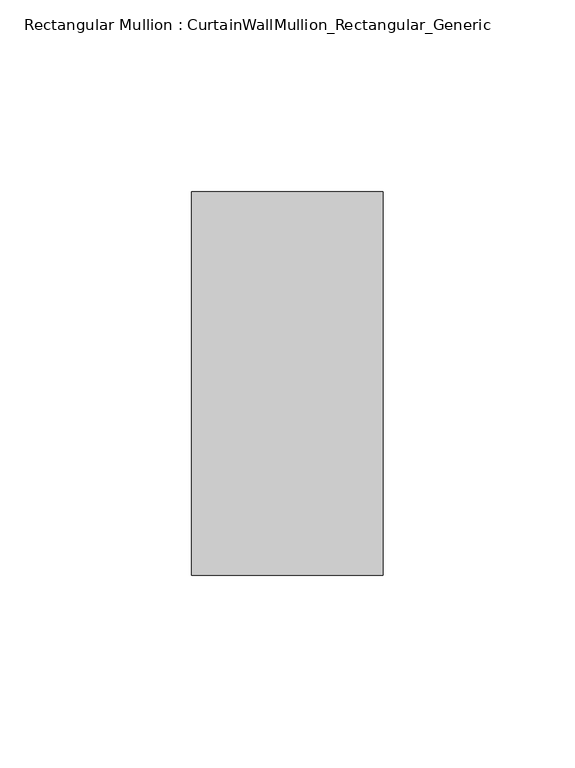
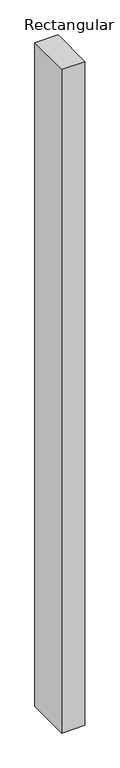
"""IFC4 building model written with IfcOpenShell, lengths in millimetres: member geometry, Rectangular Mullion : CurtainWallMullion_Rectangular_Generic."""

from ifc_helpers import new_model, si_unit, frame, origin, place, context, project, spatial, polyline, outline, extrude, source, transform, mapped, element, save


def rectangular_mullion_curtainwallmullion_rectangular_generic_0752d91b(model_context):
    return source(origin(), model_context, "Body", "SweptSolid", [
        extrude(outline(polyline([(0.0, 50.0), (0.0, -50.0), (-50.0, -50.0), (-50.0, 50.0), (0.0, 50.0)])), frame((0.0, 0.0, -1511.1111113), z_axis=(0.0, 0.0, 1.0), x_axis=(1.0, 0.0, 0.0)), (0.0, 0.0, 1.0), 1511.1111113),
    ])


if __name__ == "__main__":
    model = new_model("IFC4")
    model_context = context("Model", 3, world=origin())
    ifc_project = project(units=[si_unit("LENGTHUNIT", "METRE", prefix="MILLI")], contexts=[model_context])
    site = spatial("IfcSite", under=ifc_project)
    building = spatial("IfcBuilding", under=site)
    placement = place(None, origin())
    rectangular_mullion_curtainwallmullion_rectangular_generic_shape = rectangular_mullion_curtainwallmullion_rectangular_generic_0752d91b(model_context)
    element("IfcMember", 1, ObjectType="Rectangular Mullion : CurtainWallMullion_Rectangular_Generic", at=placement, inside=building, context=model_context, shape_type="MappedRepresentation", body=[
        mapped(rectangular_mullion_curtainwallmullion_rectangular_generic_shape, transform((0.0, 0.0, 0.0), x_axis=(1.0, 0.0, 0.0), y_axis=(0.0, 1.0, 0.0), z_axis=(0.0, 0.0, 1.0))),
    ])
    save(model, "model.ifc")
